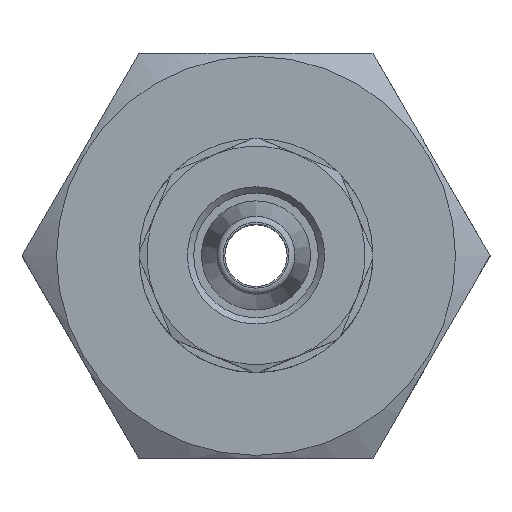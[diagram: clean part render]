
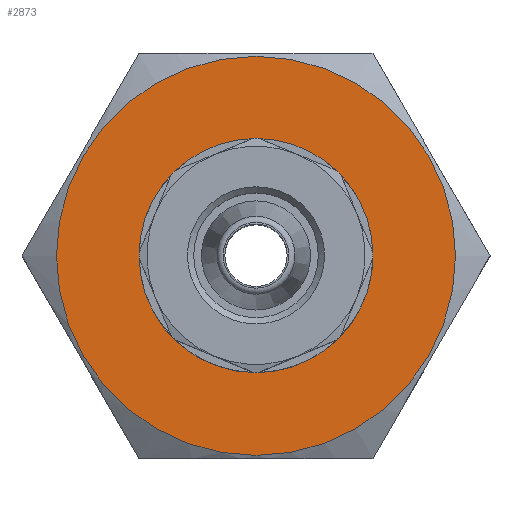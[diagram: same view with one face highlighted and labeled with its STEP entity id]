
A CAD part, top view. The second image highlights one B-rep face of the part: STEP entity #2873.
In plain terms, the highlighted planar face has unit normal (0, 0, 1) as drawn and (0, 1, 0) by its records, which use the part's own axes.
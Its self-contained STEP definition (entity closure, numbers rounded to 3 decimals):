
#1319=PLANE('',#2777);
#1529=ORIENTED_EDGE('',*,*,#1810,.F.);
#1530=ORIENTED_EDGE('',*,*,#1809,.T.);
#1621=CIRCLE('',#2776,3.);
#1622=CIRCLE('',#2778,6.4);
#1700=VERTEX_POINT('',#2605);
#1701=VERTEX_POINT('',#2608);
#1809=EDGE_CURVE('',#1700,#1700,#1621,.T.);
#1810=EDGE_CURVE('',#1701,#1701,#1622,.T.);
#1909=EDGE_LOOP('',(#1529));
#1910=EDGE_LOOP('',(#1530));
#2009=FACE_BOUND('',#1909,.T.);
#2010=FACE_BOUND('',#1910,.T.);
#2321=DIRECTION('',(0.,-1.,0.));
#2322=DIRECTION('',(0.,0.,3.));
#2323=DIRECTION('',(0.,1.,0.));
#2324=DIRECTION('',(1.,0.,0.));
#2325=DIRECTION('',(0.,-1.,0.));
#2326=DIRECTION('',(0.,0.,6.4));
#2605=CARTESIAN_POINT('',(6.883,16.735,3.));
#2606=CARTESIAN_POINT('',(6.883,16.735,0.));
#2607=CARTESIAN_POINT('',(13.283,16.735,0.));
#2608=CARTESIAN_POINT('',(6.883,16.735,6.4));
#2609=CARTESIAN_POINT('',(6.883,16.735,0.));
#2776=AXIS2_PLACEMENT_3D('',#2606,#2321,#2322);
#2777=AXIS2_PLACEMENT_3D('',#2607,#2323,#2324);
#2778=AXIS2_PLACEMENT_3D('',#2609,#2325,#2326);
#2873=ADVANCED_FACE('',(#2009,#2010),#1319,.T.);
